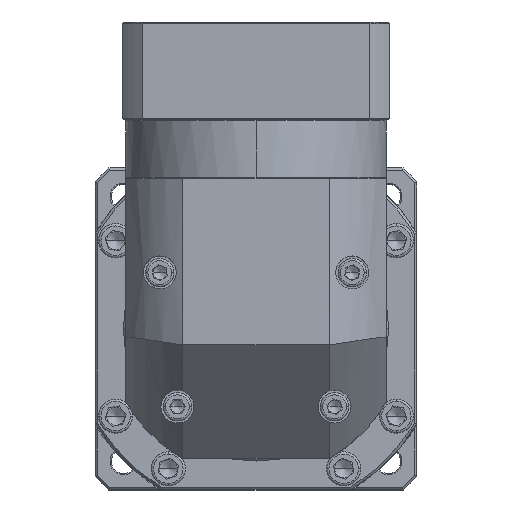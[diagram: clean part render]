
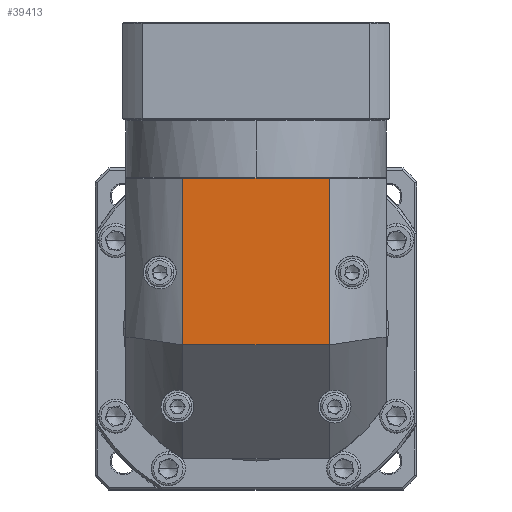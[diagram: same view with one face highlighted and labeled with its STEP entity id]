
A CAD part, top view. The second image highlights one B-rep face of the part: STEP entity #39413.
In plain terms, the highlighted planar face has unit normal (0, 0, 1).
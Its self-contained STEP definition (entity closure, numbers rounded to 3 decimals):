
#7339 = LINE ( 'NONE', #74298, #51399 ) ;
#18635 = CARTESIAN_POINT ( 'NONE',  ( -70.309, 184.643, 53.672 ) ) ;
#20769 = EDGE_CURVE ( 'NONE', #41529, #24048, #117514, .T. ) ;
#22497 = CARTESIAN_POINT ( 'NONE',  ( -70.309, 111.243, 53.672 ) ) ;
#24048 = VERTEX_POINT ( 'NONE', #100321 ) ;
#31107 = FACE_OUTER_BOUND ( 'NONE', #102019, .T. ) ;
#31939 = ORIENTED_EDGE ( 'NONE', *, *, #131841, .F. ) ;
#35602 = CARTESIAN_POINT ( 'NONE',  ( -135.109, 61.243, 53.672 ) ) ;
#39413 = ADVANCED_FACE ( 'NONE', ( #31107 ), #75052, .F. ) ;
#41529 = VERTEX_POINT ( 'NONE', #119870 ) ;
#43633 = VECTOR ( 'NONE', #119367, 1000. ) ;
#51399 = VECTOR ( 'NONE', #52485, 1000. ) ;
#52485 = DIRECTION ( 'NONE',  ( 0., -1., 0. ) ) ;
#57405 = DIRECTION ( 'NONE',  ( 0., 1., 0. ) ) ;
#59885 = VECTOR ( 'NONE', #57405, 1000. ) ;
#63680 = DIRECTION ( 'NONE',  ( 0., 0., -1. ) ) ;
#72830 = DIRECTION ( 'NONE',  ( -1., 0., 0. ) ) ;
#74298 = CARTESIAN_POINT ( 'NONE',  ( -70.309, 61.243, 53.672 ) ) ;
#75052 = PLANE ( 'NONE',  #122337 ) ;
#89423 = LINE ( 'NONE', #129375, #43633 ) ;
#90072 = ORIENTED_EDGE ( 'NONE', *, *, #131469, .F. ) ;
#100321 = CARTESIAN_POINT ( 'NONE',  ( -135.109, 184.643, 53.672 ) ) ;
#102019 = EDGE_LOOP ( 'NONE', ( #106012, #31939, #90072, #136134 ) ) ;
#106012 = ORIENTED_EDGE ( 'NONE', *, *, #20769, .F. ) ;
#107018 = VERTEX_POINT ( 'NONE', #18635 ) ;
#112027 = EDGE_CURVE ( 'NONE', #24048, #107018, #89423, .T. ) ;
#114714 = VERTEX_POINT ( 'NONE', #22497 ) ;
#115977 = CARTESIAN_POINT ( 'NONE',  ( -160.209, 111.243, 53.672 ) ) ;
#117245 = CARTESIAN_POINT ( 'NONE',  ( -102.709, 118.743, 53.672 ) ) ;
#117514 = LINE ( 'NONE', #35602, #59885 ) ;
#119367 = DIRECTION ( 'NONE',  ( 1., 0., 0. ) ) ;
#119870 = CARTESIAN_POINT ( 'NONE',  ( -135.109, 111.243, 53.672 ) ) ;
#120757 = LINE ( 'NONE', #115977, #125785 ) ;
#122337 = AXIS2_PLACEMENT_3D ( 'NONE', #117245, #63680, #128656 ) ;
#125785 = VECTOR ( 'NONE', #72830, 1000. ) ;
#128656 = DIRECTION ( 'NONE',  ( 1., 0., 0. ) ) ;
#129375 = CARTESIAN_POINT ( 'NONE',  ( -160.209, 184.643, 53.672 ) ) ;
#131469 = EDGE_CURVE ( 'NONE', #107018, #114714, #7339, .T. ) ;
#131841 = EDGE_CURVE ( 'NONE', #114714, #41529, #120757, .T. ) ;
#136134 = ORIENTED_EDGE ( 'NONE', *, *, #112027, .F. ) ;
